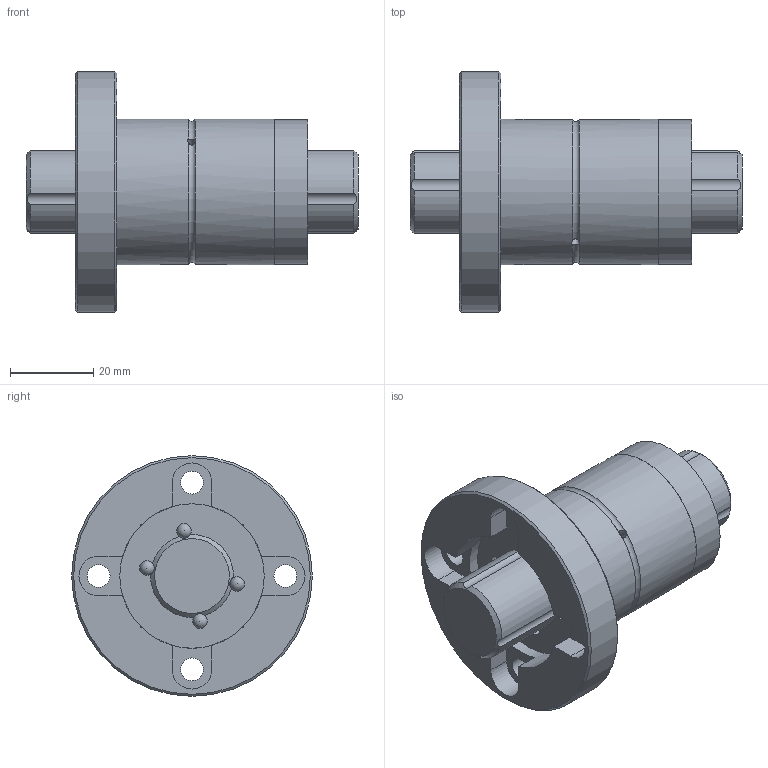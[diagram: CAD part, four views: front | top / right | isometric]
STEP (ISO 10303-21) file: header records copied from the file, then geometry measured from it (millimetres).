
FILE_DESCRIPTION(/* description */ ('Unknown'),/* implementation_level */ '2;1');
FILE_NAME(/* name */ 'TLF020-D-L80',/* time_stamp */ '2024-12-16T13:53:17+08:00',/* author */ ('Unknown'),/* organization */ ('Unknown'),/* preprocessor_version */ 'ST-DEVELOPER v18.102',/* originating_system */ 'Solid Edge',/* authorisation */ 'Unknown');
FILE_SCHEMA (('AUTOMOTIVE_DESIGN {1 0 10303 214 3 1 1}'));
Length unit declared in the file: millimetre
Products named in the file (3): TLF020-D-L80; TLF020-D-xxxx; TLF020
Assembly tree (2 placements, depth 2):
  TLF020-D-L80
    TLF020-D-xxxx
    TLF020
Bounding box: 80 x 58 x 58 mm (x, y, z)
Volume: 68826.2 mm3; surface area: 23343.1 mm2
Topology: 2 solids, 2 shells, 76 faces, 267 edges, 180 vertices
Faces by surface type: cylinder 31, sphere 20, plane 19, cone 4, torus 2
Full cylindrical faces by diameter (mm): 2 x2, 5.5 x4, 34.8 x2, 35 x2, 58 x1
Entity records: 3219 total; most frequent: CARTESIAN_POINT 1317, DIRECTION 364, ORIENTED_EDGE 330, EDGE_CURVE 165, EDGE_LOOP 158, FACE_BOUND 158, AXIS2_PLACEMENT_3D 158, VERTEX_POINT 129
